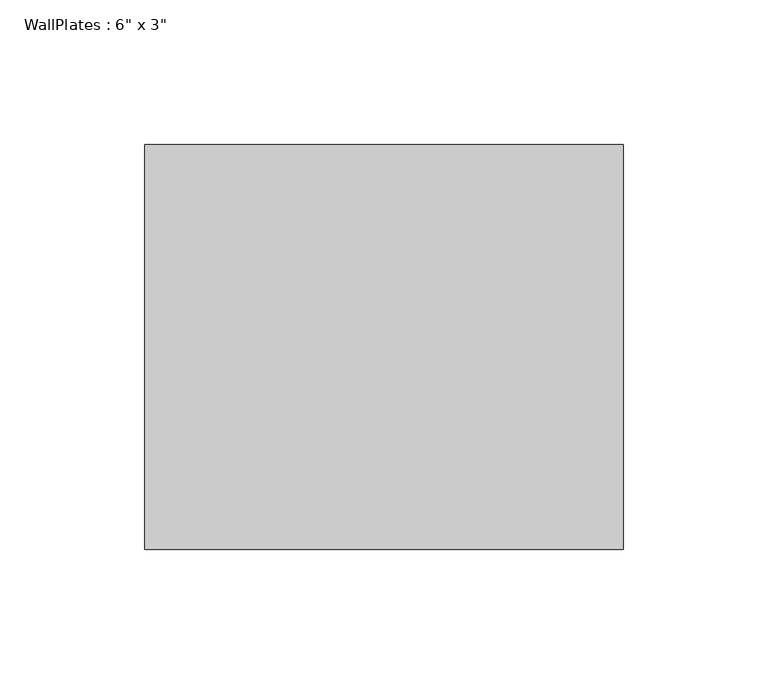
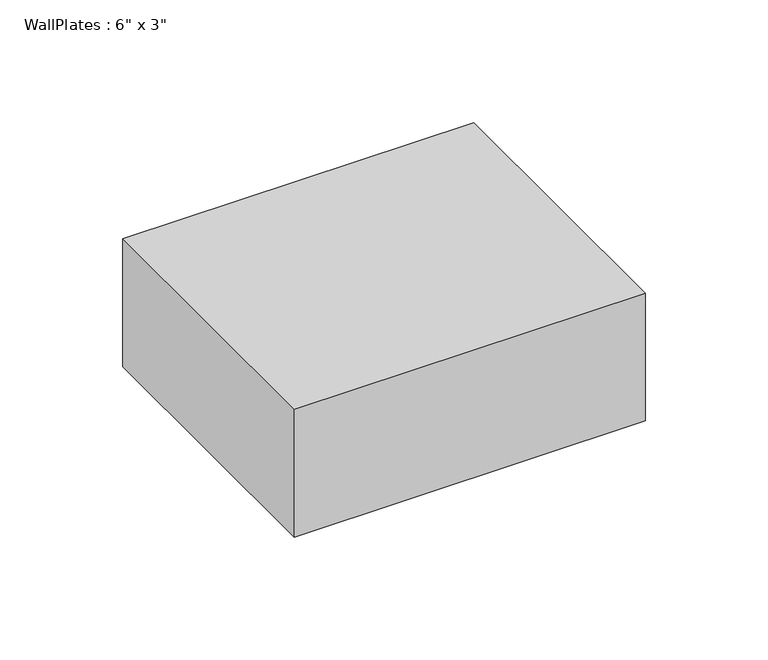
"""IFC4 building model written with IfcOpenShell, lengths in millimetres: beam geometry."""

from ifc_helpers import new_model, si_unit, frame, origin, place, context, project, spatial, polyline, outline, extrude, source, transform, mapped, element, save


def beam_abd72be2(model_context):
    return source(origin(), model_context, "Body", "SweptSolid", [
        extrude(outline(polyline([(-82.55, -69.85), (-82.55, 69.85), (82.55, 69.85), (82.55, -69.85), (-82.55, -69.85)])), frame((0.0, 0.0, -31.75), z_axis=(0.0, 0.0, 1.0), x_axis=(1.0, 0.0, 0.0)), (0.0, 0.0, 1.0), 63.5),
    ])


if __name__ == "__main__":
    model = new_model("IFC4")
    model_context = context("Model", 3, world=origin())
    ifc_project = project(units=[si_unit("LENGTHUNIT", "METRE", prefix="MILLI")], contexts=[model_context])
    site = spatial("IfcSite", under=ifc_project)
    building = spatial("IfcBuilding", under=site)
    placement = place(None, origin())
    beam_shape = beam_abd72be2(model_context)
    element("IfcBeam", 1, ObjectType="WallPlates : 6\" x 3\"", at=placement, inside=building, context=model_context, shape_type="MappedRepresentation", body=[
        mapped(beam_shape, transform((0.0, 0.0, 0.0), x_axis=(1.0, 0.0, 0.0), y_axis=(0.0, 1.0, 0.0), z_axis=(0.0, 0.0, 1.0))),
    ])
    save(model, "model.ifc")
